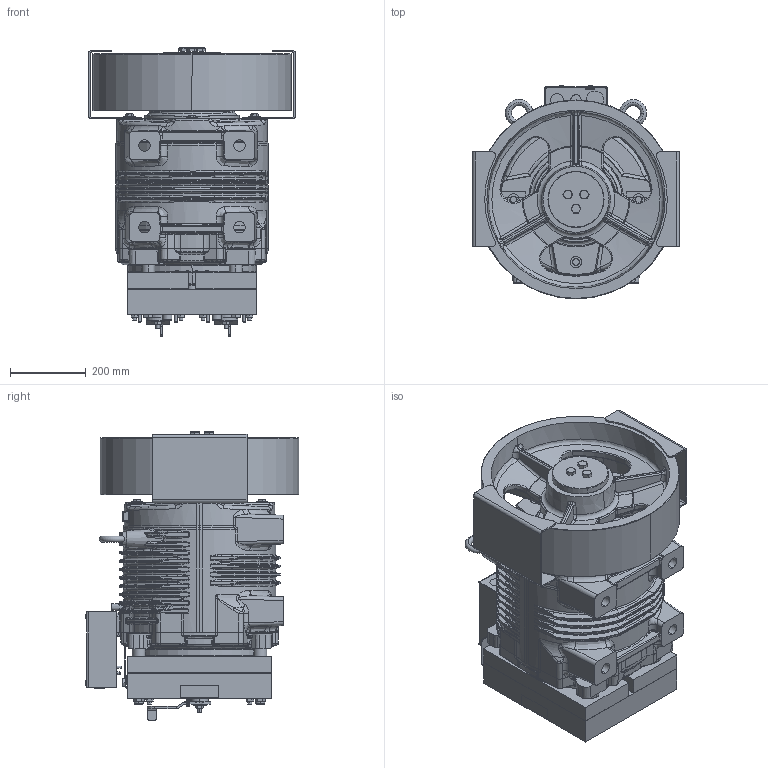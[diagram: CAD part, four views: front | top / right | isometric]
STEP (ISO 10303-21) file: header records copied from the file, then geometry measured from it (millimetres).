
FILE_DESCRIPTION((''),'2;1');
FILE_NAME('00363634_ASM','2020-06-16T',('furlanis'),('Sicor spa'),'CREO PARAMETRIC BY PTC INC, 2017170','CREO PARAMETRIC BY PTC INC, 2017170','');
FILE_SCHEMA(('CONFIG_CONTROL_DESIGN'));
Products named in the file (4): SG62_; _520_150; _520; 00363634_ASM
Assembly tree (4 placements, depth 2):
  00363634_ASM
    SG62_
    _520_150
    _520  x2
Bounding box: 545 x 563.9 x 759.04 mm (x, y, z)
Volume: 12641596.9 mm3; surface area: 4975069.9 mm2
Topology: 3 solids, 181 shells, 4073 faces, 11479 edges, 7317 vertices
Faces by surface type: bspline 1159, plane 941, cylinder 920, torus 553, cone 450, sphere 50
Entity records: 229162 total; most frequent: CARTESIAN_POINT 140271, ORIENTED_EDGE 19794, DIRECTION 14904, EDGE_CURVE 11329, VERTEX_POINT 7257, AXIS2_PLACEMENT_3D 5953, B_SPLINE_CURVE_WITH_KNOTS 5262, EDGE_LOOP 4048
